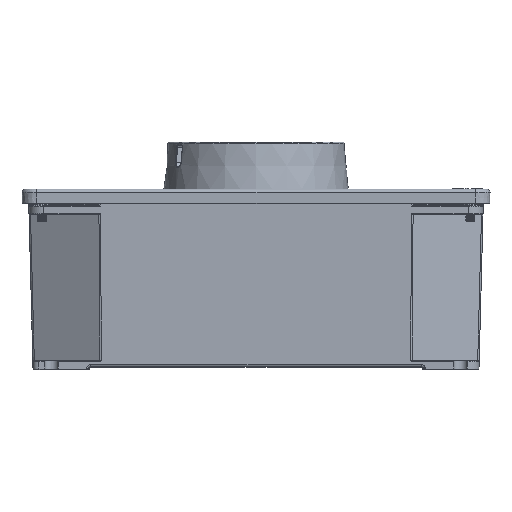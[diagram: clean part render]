
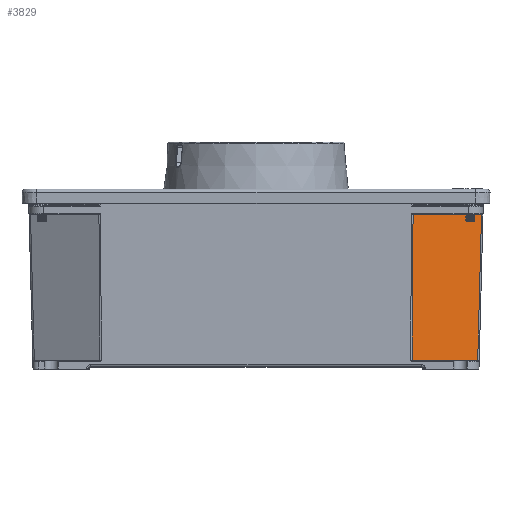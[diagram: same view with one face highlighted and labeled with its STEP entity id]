
A CAD part, left-side view. The second image highlights one B-rep face of the part: STEP entity #3829.
In plain terms, the highlighted planar face has unit normal (-0.866, -0.5, -0.026).
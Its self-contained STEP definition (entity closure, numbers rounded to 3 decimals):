
#67=(
BOUNDED_CURVE()
B_SPLINE_CURVE(2,(#79686,#79687,#79688),.UNSPECIFIED.,.F.,.F.)
B_SPLINE_CURVE_WITH_KNOTS((3,3),(0.,1.),.UNSPECIFIED.)
CURVE()
GEOMETRIC_REPRESENTATION_ITEM()
RATIONAL_B_SPLINE_CURVE((1.,0.974,1.))
REPRESENTATION_ITEM('')
);
#1551=PLANE('',#41397);
#3829=ADVANCED_FACE('',(#6615),#1551,.T.);
#6615=FACE_OUTER_BOUND('',#9024,.T.);
#9024=EDGE_LOOP('',(#22774,#22775,#22776,#22777,#22778));
#12667=LINE('',#79629,#15554);
#12673=LINE('',#79646,#15560);
#12674=LINE('',#79659,#15561);
#12706=LINE('',#80224,#15593);
#15554=VECTOR('',#47876,1.);
#15560=VECTOR('',#47888,1.);
#15561=VECTOR('',#47891,1.);
#15593=VECTOR('',#47979,1.);
#22774=ORIENTED_EDGE('',*,*,#35141,.T.);
#22775=ORIENTED_EDGE('',*,*,#35133,.T.);
#22776=ORIENTED_EDGE('',*,*,#35143,.T.);
#22777=ORIENTED_EDGE('',*,*,#35211,.T.);
#22778=ORIENTED_EDGE('',*,*,#35150,.T.);
#30541=VERTEX_POINT('',#79518);
#30544=VERTEX_POINT('',#79548);
#30554=VERTEX_POINT('',#79647);
#30555=VERTEX_POINT('',#79660);
#30559=VERTEX_POINT('',#79689);
#35133=EDGE_CURVE('',#30544,#30541,#12667,.T.);
#35141=EDGE_CURVE('',#30554,#30544,#12673,.T.);
#35143=EDGE_CURVE('',#30541,#30555,#12674,.T.);
#35150=EDGE_CURVE('',#30559,#30554,#67,.T.);
#35211=EDGE_CURVE('',#30555,#30559,#12706,.T.);
#41397=AXIS2_PLACEMENT_3D('',#80225,#47980,#47981);
#47876=DIRECTION('',(0.5,-0.866,0.));
#47888=DIRECTION('',(0.026,0.007,-1.));
#47891=DIRECTION('',(-0.015,-0.026,1.));
#47979=DIRECTION('',(-0.5,0.866,0.));
#47980=DIRECTION('',(-0.866,-0.5,-0.026));
#47981=DIRECTION('',(-0.5,0.866,0.));
#79518=CARTESIAN_POINT('',(-99.296,-148.989,-53.237));
#79548=CARTESIAN_POINT('',(-124.77,-104.866,-53.237));
#79629=CARTESIAN_POINT('',(-124.77,-104.866,-53.237));
#79646=CARTESIAN_POINT('',(-127.338,-105.553,44.801));
#79647=CARTESIAN_POINT('',(-127.338,-105.553,44.801));
#79659=CARTESIAN_POINT('',(-99.296,-148.989,-53.237));
#79660=CARTESIAN_POINT('',(-100.777,-151.554,44.75));
#79686=CARTESIAN_POINT('',(-127.117,-105.933,44.75));
#79687=CARTESIAN_POINT('',(-127.233,-105.731,44.75));
#79688=CARTESIAN_POINT('',(-127.338,-105.553,44.801));
#79689=CARTESIAN_POINT('',(-127.117,-105.933,44.75));
#80224=CARTESIAN_POINT('',(-100.777,-151.554,44.75));
#80225=CARTESIAN_POINT('',(-138.884,-80.184,-57.75));
